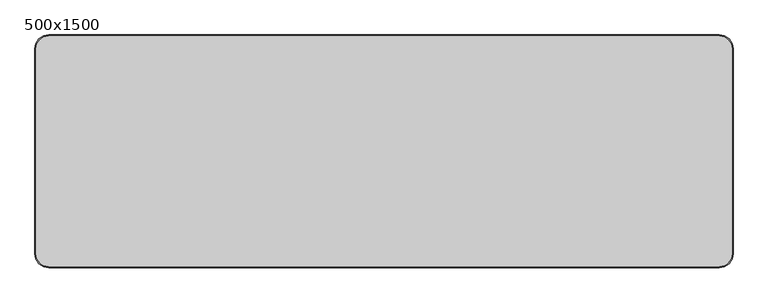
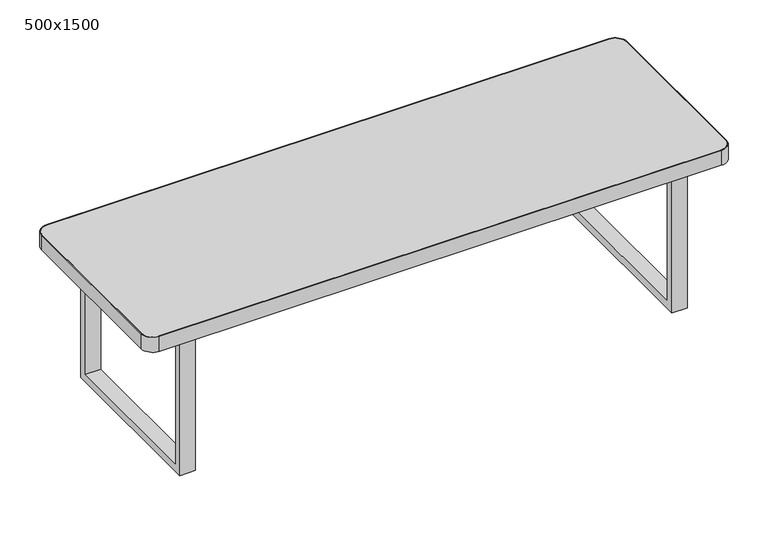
"""IFC4 building model written with IfcOpenShell, lengths in millimetres: furniture geometry, TN.RES.Bench01 : 500x1500."""

from ifc_helpers import new_model, si_unit, point, frame, frame_2d, origin, origin_with_axes, place, context, project, spatial, polyline, circle_curve, trimmed, segment, composite_curve, outline, extrude, faceted_brep, source, transform, mapped, element, save


def furniture_500x1500_900b8abb(model_context):
    return source(origin(), model_context, "Body", "SolidModel", [
        faceted_brep([(100.0, -470.0, 390.0), (100.0, -470.0, 10.0), (140.0, -470.0, 10.0), (140.0, -470.0, 370.0), (1360.0, -470.0, 370.0), (1360.0, -470.0, 10.0), (1400.0, -470.0, 10.0), (1400.0, -470.0, 390.0), (100.0, -450.0, 370.0), (140.0, -450.0, 370.0), (140.0, -450.0, 30.0), (100.0, -450.0, 30.0), (100.0, -30.0, 10.0), (140.0, -30.0, 10.0), (140.0, -50.0, 30.0), (100.0, -50.0, 30.0), (100.0, -30.0, 390.0), (1400.0, -30.0, 390.0), (1400.0, -30.0, 10.0), (1360.0, -30.0, 10.0), (1360.0, -30.0, 370.0), (140.0, -30.0, 370.0), (140.0, -50.0, 370.0), (100.0, -50.0, 370.0), (140.0, -70.0, 390.0), (1360.0, -70.0, 390.0), (1360.0, -430.0, 390.0), (140.0, -430.0, 390.0), (140.0, -430.0, 370.0), (140.0, -70.0, 370.0), (1360.0, -50.0, 370.0), (1400.0, -50.0, 370.0), (1400.0, -450.0, 370.0), (1360.0, -450.0, 370.0), (1360.0, -430.0, 370.0), (1360.0, -70.0, 370.0), (1400.0, -450.0, 30.0), (1360.0, -450.0, 30.0), (1400.0, -50.0, 30.0), (1360.0, -50.0, 30.0)], [[[0, 1, 2, 3, 4, 5, 6, 7]], [[8, 9, 10, 11]], [[2, 1, 12, 13]], [[11, 10, 14, 15]], [[13, 12, 16, 17, 18, 19, 20, 21]], [[15, 14, 22, 23]], [[1, 0, 16, 12], [8, 11, 15, 23]], [[17, 16, 0, 7], [24, 25, 26, 27]], [[10, 9, 3, 2, 13, 21, 22, 14]], [[27, 28, 29, 24]], [[9, 8, 23, 22, 21, 20, 30, 31, 32, 33, 4, 3], [28, 34, 35, 29]], [[34, 28, 27, 26]], [[25, 24, 29, 35]], [[33, 32, 36, 37]], [[6, 5, 19, 18]], [[37, 36, 38, 39]], [[39, 38, 31, 30]], [[35, 34, 26, 25]], [[33, 37, 39, 30, 20, 19, 5, 4]], [[7, 6, 18, 17], [36, 32, 31, 38]]]),
        extrude(outline(composite_curve([segment(polyline([(1470.0, -498.0), (30.0, -498.0)]), True, "CONTINUOUS"), segment(trimmed(circle_curve(frame_2d((30.0, -470.0)), 28.0), [point((30.0, -498.0))], [point((2.0, -470.0))], False, "CARTESIAN"), True, "CONTINUOUS"), segment(polyline([(2.0, -470.0), (2.0, -30.0)]), True, "CONTINUOUS"), segment(trimmed(circle_curve(frame_2d((30.0, -30.0)), 28.0), [point((2.0, -30.0))], [point((30.0, -2.0))], False, "CARTESIAN"), True, "CONTINUOUS"), segment(polyline([(30.0, -2.0), (1470.0, -2.0)]), True, "CONTINUOUS"), segment(trimmed(circle_curve(frame_2d((1470.0, -30.0)), 28.0), [point((1470.0, -2.0))], [point((1498.0, -30.0))], False, "CARTESIAN"), True, "CONTINUOUS"), segment(polyline([(1498.0, -30.0), (1498.0, -470.0)]), True, "CONTINUOUS"), segment(trimmed(circle_curve(frame_2d((1470.0, -470.0)), 28.0), [point((1498.0, -470.0))], [point((1470.0, -498.0))], False, "CARTESIAN"), True, "CONTINUOUS")], self_intersect=False)), frame((0.0, 0.0, 390.0), z_axis=(0.0, 0.0, 1.0), x_axis=(1.0, 0.0, 0.0)), (0.0, 0.0, 1.0), 40.0),
        extrude(outline(polyline([(1390.0, -430.0), (1390.0, -450.0), (1370.0, -450.0), (1370.0, -430.0), (1390.0, -430.0)])), origin_with_axes(), (0.0, 0.0, 1.0), 10.0),
        extrude(outline(polyline([(1390.0, -50.0), (1390.0, -70.0), (1370.0, -70.0), (1370.0, -50.0), (1390.0, -50.0)])), origin_with_axes(), (0.0, 0.0, 1.0), 10.0),
        extrude(outline(composite_curve([segment(polyline([(1470.0, -500.0), (30.0, -500.0)]), True, "CONTINUOUS"), segment(trimmed(circle_curve(frame_2d((30.0, -470.0)), 30.0), [point((30.0, -500.0))], [point((0.0, -470.0))], False, "CARTESIAN"), True, "CONTINUOUS"), segment(polyline([(0.0, -470.0), (0.0, -30.0)]), True, "CONTINUOUS"), segment(trimmed(circle_curve(frame_2d((30.0, -30.0)), 30.0), [point((0.0, -30.0))], [point((30.0, 0.0))], False, "CARTESIAN"), True, "CONTINUOUS"), segment(polyline([(30.0, 0.0), (1470.0, 0.0)]), True, "CONTINUOUS"), segment(trimmed(circle_curve(frame_2d((1470.0, -30.0)), 30.0), [point((1470.0, 0.0))], [point((1500.0, -30.0))], False, "CARTESIAN"), True, "CONTINUOUS"), segment(polyline([(1500.0, -30.0), (1500.0, -470.0)]), True, "CONTINUOUS"), segment(trimmed(circle_curve(frame_2d((1470.0, -470.0)), 30.0), [point((1500.0, -470.0))], [point((1470.0, -500.0))], False, "CARTESIAN"), True, "CONTINUOUS")], self_intersect=False), holes=[composite_curve([segment(trimmed(circle_curve(frame_2d((30.0, -30.0)), 28.0), [point((30.0, -2.0))], [point((2.0, -30.0))], True, "CARTESIAN"), True, "CONTINUOUS"), segment(polyline([(2.0, -30.0), (2.0, -470.0)]), True, "CONTINUOUS"), segment(trimmed(circle_curve(frame_2d((30.0, -470.0)), 28.0), [point((2.0, -470.0))], [point((30.0, -498.0))], True, "CARTESIAN"), True, "CONTINUOUS"), segment(polyline([(30.0, -498.0), (1470.0, -498.0)]), True, "CONTINUOUS"), segment(trimmed(circle_curve(frame_2d((1470.0, -470.0)), 28.0), [point((1470.0, -498.0))], [point((1498.0, -470.0))], True, "CARTESIAN"), True, "CONTINUOUS"), segment(polyline([(1498.0, -470.0), (1498.0, -30.0)]), True, "CONTINUOUS"), segment(trimmed(circle_curve(frame_2d((1470.0, -30.0)), 28.0), [point((1498.0, -30.0))], [point((1470.0, -2.0))], True, "CARTESIAN"), True, "CONTINUOUS"), segment(polyline([(1470.0, -2.0), (30.0, -2.0)]), True, "CONTINUOUS")], self_intersect=False)]), frame((0.0, 0.0, 390.0), z_axis=(0.0, 0.0, 1.0), x_axis=(1.0, 0.0, 0.0)), (0.0, 0.0, 1.0), 40.0),
        extrude(outline(polyline([(130.0, -430.0), (130.0, -450.0), (110.0, -450.0), (110.0, -430.0), (130.0, -430.0)])), origin_with_axes(), (0.0, 0.0, 1.0), 10.0),
        extrude(outline(polyline([(130.0, -50.0), (130.0, -70.0), (110.0, -70.0), (110.0, -50.0), (130.0, -50.0)])), origin_with_axes(), (0.0, 0.0, 1.0), 10.0),
    ])


if __name__ == "__main__":
    model = new_model("IFC4")
    model_context = context("Model", 3, world=origin())
    ifc_project = project(units=[si_unit("LENGTHUNIT", "METRE", prefix="MILLI")], contexts=[model_context])
    site = spatial("IfcSite", under=ifc_project)
    building = spatial("IfcBuilding", under=site)
    placement = place(None, origin())
    furniture_500x1500_shape = furniture_500x1500_900b8abb(model_context)
    element("IfcFurniture", 1, ObjectType="TN.RES.Bench01 : 500x1500", at=placement, inside=building, context=model_context, shape_type="MappedRepresentation", body=[
        mapped(furniture_500x1500_shape, transform((0.0, 0.0, 0.0), x_axis=(1.0, 0.0, 0.0), y_axis=(0.0, 1.0, 0.0), z_axis=(0.0, 0.0, 1.0))),
    ])
    save(model, "model.ifc")
